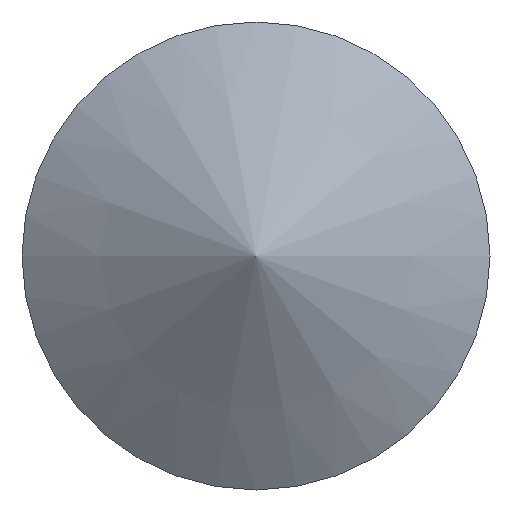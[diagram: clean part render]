
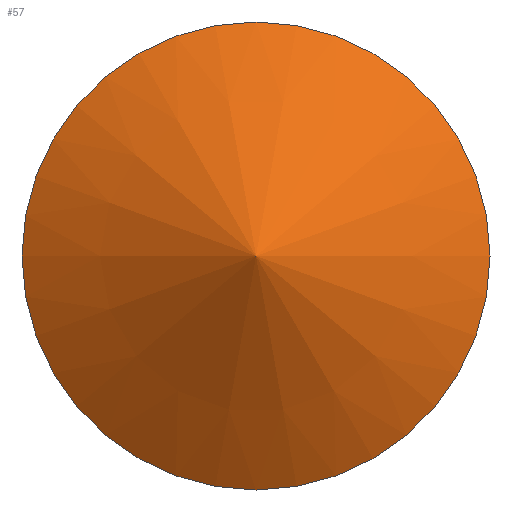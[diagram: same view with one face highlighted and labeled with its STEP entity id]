
A CAD part, left-side view. The second image highlights one B-rep face of the part: STEP entity #57.
In plain terms, the highlighted conical face has half-angle 59 degrees and reference radius 2 mm.
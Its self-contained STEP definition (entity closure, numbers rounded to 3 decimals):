
#15=CONICAL_SURFACE('',#84,2.,1.03);
#19=FACE_OUTER_BOUND('',#22,.T.);
#22=EDGE_LOOP('',(#50,#51,#52,#53));
#24=LINE('',#117,#26);
#26=VECTOR('',#102,2.);
#29=CIRCLE('',#81,4.);
#30=CIRCLE('',#82,4.);
#33=VERTEX_POINT('',#109);
#34=VERTEX_POINT('',#111);
#35=VERTEX_POINT('',#116);
#39=EDGE_CURVE('',#33,#34,#29,.T.);
#40=EDGE_CURVE('',#34,#33,#30,.T.);
#41=EDGE_CURVE('',#33,#35,#24,.T.);
#50=ORIENTED_EDGE('',*,*,#40,.F.);
#51=ORIENTED_EDGE('',*,*,#39,.F.);
#52=ORIENTED_EDGE('',*,*,#41,.T.);
#53=ORIENTED_EDGE('',*,*,#41,.F.);
#57=ADVANCED_FACE('',(#19),#15,.T.);
#81=AXIS2_PLACEMENT_3D('',#112,#94,#95);
#82=AXIS2_PLACEMENT_3D('',#113,#96,#97);
#84=AXIS2_PLACEMENT_3D('',#115,#100,#101);
#94=DIRECTION('center_axis',(1.,0.,0.));
#95=DIRECTION('ref_axis',(0.,0.,-1.));
#96=DIRECTION('center_axis',(1.,0.,0.));
#97=DIRECTION('ref_axis',(0.,0.,-1.));
#100=DIRECTION('center_axis',(1.,0.,0.));
#101=DIRECTION('ref_axis',(0.,1.,0.));
#102=DIRECTION('',(-0.515,0.857,0.));
#109=CARTESIAN_POINT('',(-13.5,-4.,0.));
#111=CARTESIAN_POINT('',(-13.5,4.,0.));
#112=CARTESIAN_POINT('Origin',(-13.5,0.,0.));
#113=CARTESIAN_POINT('Origin',(-13.5,0.,0.));
#115=CARTESIAN_POINT('Origin',(-14.702,0.,0.));
#116=CARTESIAN_POINT('',(-15.903,0.,0.));
#117=CARTESIAN_POINT('',(-14.702,-2.,0.));
